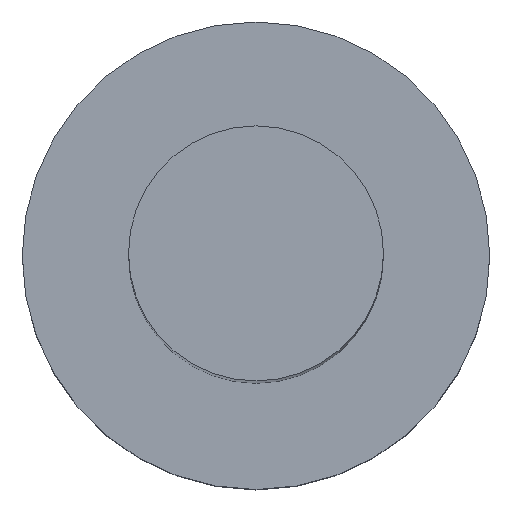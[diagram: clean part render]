
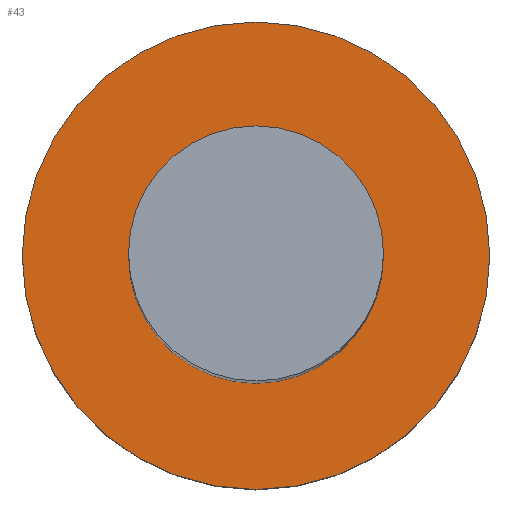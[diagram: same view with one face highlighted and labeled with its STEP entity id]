
A CAD part, top view. The second image highlights one B-rep face of the part: STEP entity #43.
In plain terms, the highlighted planar face has unit normal (0, 0, 1).
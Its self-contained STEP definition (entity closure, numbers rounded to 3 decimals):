
#1 = CIRCLE ( 'NONE', #218, 2.75 ) ;
#8 = CARTESIAN_POINT ( 'NONE',  ( 2.75, 0., 0. ) ) ;
#10 = DIRECTION ( 'NONE',  ( 0., 0., 1. ) ) ;
#22 = ORIENTED_EDGE ( 'NONE', *, *, #154, .T. ) ;
#26 = ORIENTED_EDGE ( 'NONE', *, *, #126, .F. ) ;
#28 = AXIS2_PLACEMENT_3D ( 'NONE', #150, #10, #66 ) ;
#30 = EDGE_LOOP ( 'NONE', ( #26, #140 ) ) ;
#37 = CIRCLE ( 'NONE', #203, 1.5 ) ;
#43 = ADVANCED_FACE ( 'NONE', ( #244, #113 ), #47, .T. ) ;
#47 = PLANE ( 'NONE',  #116 ) ;
#66 = DIRECTION ( 'NONE',  ( 1., 0., 0. ) ) ;
#67 = CARTESIAN_POINT ( 'NONE',  ( 1.5, 0., 0. ) ) ;
#68 = CARTESIAN_POINT ( 'NONE',  ( -1.5, 0., 0. ) ) ;
#72 = EDGE_CURVE ( 'NONE', #183, #89, #37, .T. ) ;
#89 = VERTEX_POINT ( 'NONE', #68 ) ;
#109 = DIRECTION ( 'NONE',  ( 0., 0., 1. ) ) ;
#110 = DIRECTION ( 'NONE',  ( 1., 0., 0. ) ) ;
#111 = VERTEX_POINT ( 'NONE', #8 ) ;
#113 = FACE_OUTER_BOUND ( 'NONE', #245, .T. ) ;
#116 = AXIS2_PLACEMENT_3D ( 'NONE', #229, #192, #110 ) ;
#126 = EDGE_CURVE ( 'NONE', #89, #183, #160, .T. ) ;
#127 = DIRECTION ( 'NONE',  ( 0., 0., 1. ) ) ;
#138 = ORIENTED_EDGE ( 'NONE', *, *, #199, .T. ) ;
#140 = ORIENTED_EDGE ( 'NONE', *, *, #72, .F. ) ;
#142 = VERTEX_POINT ( 'NONE', #215 ) ;
#150 = CARTESIAN_POINT ( 'NONE',  ( 0., 0., 0. ) ) ;
#154 = EDGE_CURVE ( 'NONE', #111, #142, #1, .T. ) ;
#160 = CIRCLE ( 'NONE', #28, 1.5 ) ;
#169 = DIRECTION ( 'NONE',  ( 1., 0., 0. ) ) ;
#171 = DIRECTION ( 'NONE',  ( 0., 0., 1. ) ) ;
#176 = CARTESIAN_POINT ( 'NONE',  ( 0., 0., 0. ) ) ;
#183 = VERTEX_POINT ( 'NONE', #67 ) ;
#187 = DIRECTION ( 'NONE',  ( 1., 0., 0. ) ) ;
#190 = DIRECTION ( 'NONE',  ( 1., 0., 0. ) ) ;
#192 = DIRECTION ( 'NONE',  ( 0., 0., 1. ) ) ;
#199 = EDGE_CURVE ( 'NONE', #142, #111, #209, .T. ) ;
#203 = AXIS2_PLACEMENT_3D ( 'NONE', #176, #127, #190 ) ;
#208 = CARTESIAN_POINT ( 'NONE',  ( 0., 0., 0. ) ) ;
#209 = CIRCLE ( 'NONE', #232, 2.75 ) ;
#214 = CARTESIAN_POINT ( 'NONE',  ( 0., 0., 0. ) ) ;
#215 = CARTESIAN_POINT ( 'NONE',  ( -2.75, 0., 0. ) ) ;
#218 = AXIS2_PLACEMENT_3D ( 'NONE', #214, #171, #169 ) ;
#229 = CARTESIAN_POINT ( 'NONE',  ( 0., 0., 0. ) ) ;
#232 = AXIS2_PLACEMENT_3D ( 'NONE', #208, #109, #187 ) ;
#244 = FACE_BOUND ( 'NONE', #30, .T. ) ;
#245 = EDGE_LOOP ( 'NONE', ( #138, #22 ) ) ;
